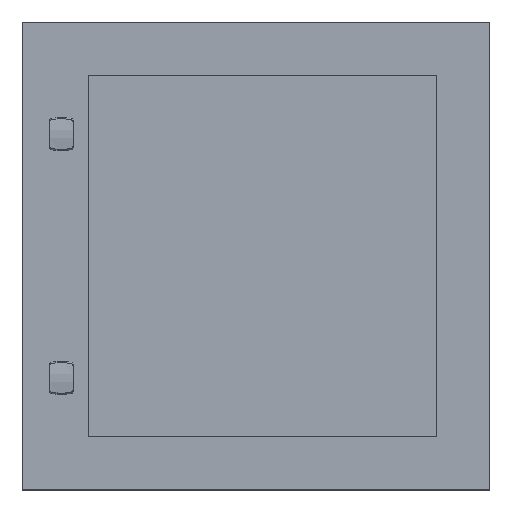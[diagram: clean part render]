
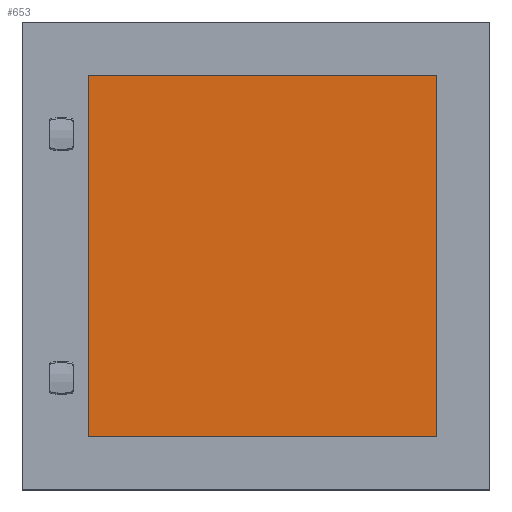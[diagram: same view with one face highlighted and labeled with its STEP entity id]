
A CAD part, top view. The second image highlights one B-rep face of the part: STEP entity #653.
In plain terms, the highlighted planar face has unit normal (0, 0, 1) as drawn and (0, 0, -1) by its records, which use the part's own axes.
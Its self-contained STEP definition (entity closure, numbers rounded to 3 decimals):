
#653 = ADVANCED_FACE( '', ( #1379 ), #1380, .F. );
#1379 = FACE_OUTER_BOUND( '', #2172, .T. );
#1380 = PLANE( '', #2173 );
#2172 = EDGE_LOOP( '', ( #3822, #3823, #3824, #3825 ) );
#2173 = AXIS2_PLACEMENT_3D( '', #3826, #3827, #3828 );
#3822 = ORIENTED_EDGE( '', *, *, #5184, .F. );
#3823 = ORIENTED_EDGE( '', *, *, #4746, .F. );
#3824 = ORIENTED_EDGE( '', *, *, #5185, .F. );
#3825 = ORIENTED_EDGE( '', *, *, #4897, .F. );
#3826 = CARTESIAN_POINT( '', ( 0., 0., 0. ) );
#3827 = DIRECTION( '', ( 0., 0., 1. ) );
#3828 = DIRECTION( '', ( 1., 0., 0. ) );
#4746 = EDGE_CURVE( '', #5722, #5723, #5724, .T. );
#4897 = EDGE_CURVE( '', #5977, #5978, #5979, .T. );
#5184 = EDGE_CURVE( '', #5723, #5977, #6369, .T. );
#5185 = EDGE_CURVE( '', #5978, #5722, #6370, .T. );
#5722 = VERTEX_POINT( '', #7154 );
#5723 = VERTEX_POINT( '', #7155 );
#5724 = LINE( '', #7156, #7157 );
#5977 = VERTEX_POINT( '', #7514 );
#5978 = VERTEX_POINT( '', #7515 );
#5979 = LINE( '', #7516, #7517 );
#6369 = LINE( '', #8097, #8098 );
#6370 = LINE( '', #8099, #8100 );
#7154 = CARTESIAN_POINT( '', ( 236.5, -244.5, 0. ) );
#7155 = CARTESIAN_POINT( '', ( 236.5, 244.5, 0. ) );
#7156 = CARTESIAN_POINT( '', ( 236.5, -244.5, 0. ) );
#7157 = VECTOR( '', #8549, 1000. );
#7514 = CARTESIAN_POINT( '', ( -236.5, 244.5, 0. ) );
#7515 = CARTESIAN_POINT( '', ( -236.5, -244.5, 0. ) );
#7516 = CARTESIAN_POINT( '', ( -236.5, 244.5, 0. ) );
#7517 = VECTOR( '', #8717, 1000. );
#8097 = CARTESIAN_POINT( '', ( 236.5, 244.5, 0. ) );
#8098 = VECTOR( '', #8989, 1000. );
#8099 = CARTESIAN_POINT( '', ( -236.5, -244.5, 0. ) );
#8100 = VECTOR( '', #8990, 1000. );
#8549 = DIRECTION( '', ( 0., 1., 0. ) );
#8717 = DIRECTION( '', ( 0., -1., 0. ) );
#8989 = DIRECTION( '', ( -1., 0., 0. ) );
#8990 = DIRECTION( '', ( 1., 0., 0. ) );
